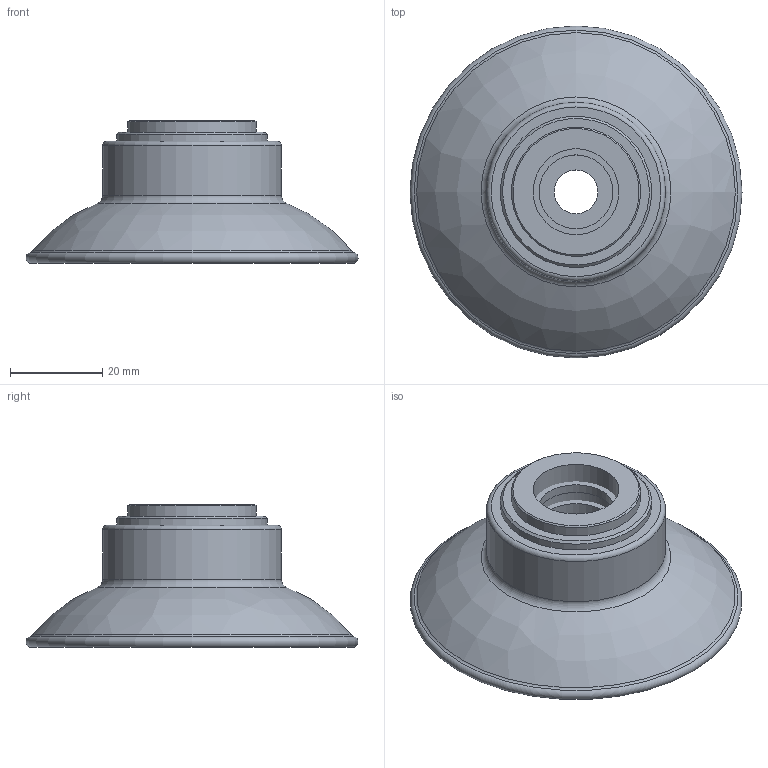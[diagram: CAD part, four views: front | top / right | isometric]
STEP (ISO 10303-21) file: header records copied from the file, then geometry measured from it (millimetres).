
FILE_DESCRIPTION( ( 'Unknown' ), '1' );
FILE_NAME( 'D:/弥龋覆(冠固急)/Smart Cup/寇何侩-唱荤魂TYPE/FCF70-12F.stp', 'Unknown', ( 'Unknown' ), ( 'Unknown' ), 'PSStep 10.0', 'Unknown', ' ' );
FILE_SCHEMA( ( 'AUTOMOTIVE_DESIGN { 1 0 10303 214 1 1 1 1 }' ) );
Length unit declared in the file: millimetre
Products named in the file (3): Assem1; FCF70; VDF-FCF-12F
Bounding box: 71.99 x 71.99 x 31 mm (x, y, z)
Volume: 49696.6 mm3; surface area: 38830.7 mm2
Topology: 4 solids, 4 shells, 102 faces, 176 edges, 102 vertices
Faces by surface type: cylinder 30, plane 28, cone 24, torus 14, bspline 6
Full cylindrical faces by diameter (mm): 9.5 x2, 16 x4, 16.8 x2, 18.631 x2, 24 x4, 28 x2, 30.8 x2, 31.8 x2, 32.8 x6, 38.8 x2, 56.9 x2
Entity records: 1561 total; most frequent: CARTESIAN_POINT 237, DIRECTION 204, AXIS2_PLACEMENT_3D 102, EDGE_LOOP 102, ORIENTED_EDGE 102, FACE_OUTER_BOUND 76, STYLED_ITEM 51, PRESENTATION_STYLE_ASSIGNMENT 51
